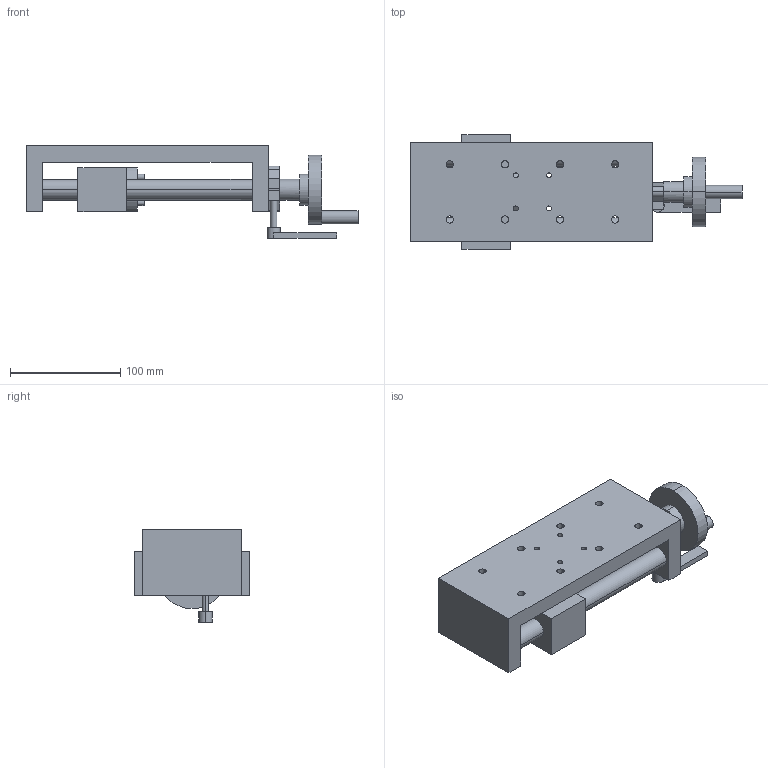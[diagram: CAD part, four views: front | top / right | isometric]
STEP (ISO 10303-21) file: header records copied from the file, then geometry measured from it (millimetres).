
FILE_DESCRIPTION (( 'STEP AP203' ), '1' );
FILE_NAME ('PT-LX100.STEP', '2022-08-20T10:46:21', ( '' ), ( '' ), 'SwSTEP 2.0', 'SolidWorks 2017', '' );
FILE_SCHEMA (( 'CONFIG_CONTROL_DESIGN' ));
Length unit declared in the file: millimetre
Products named in the file (1): PT-LX100
Bounding box: 301 x 104 x 84 mm (x, y, z)
Volume: 787961.4 mm3; surface area: 133452.2 mm2
Topology: 1 solids, 1 shells, 395 faces, 1032 edges, 660 vertices
Faces by surface type: plane 165, cylinder 121, bspline 77, cone 32
Entity records: 15393 total; most frequent: CARTESIAN_POINT 5997, ORIENTED_EDGE 2000, DIRECTION 1736, EDGE_CURVE 1000, VERTEX_POINT 660, VECTOR 594, LINE 594, AXIS2_PLACEMENT_3D 571
